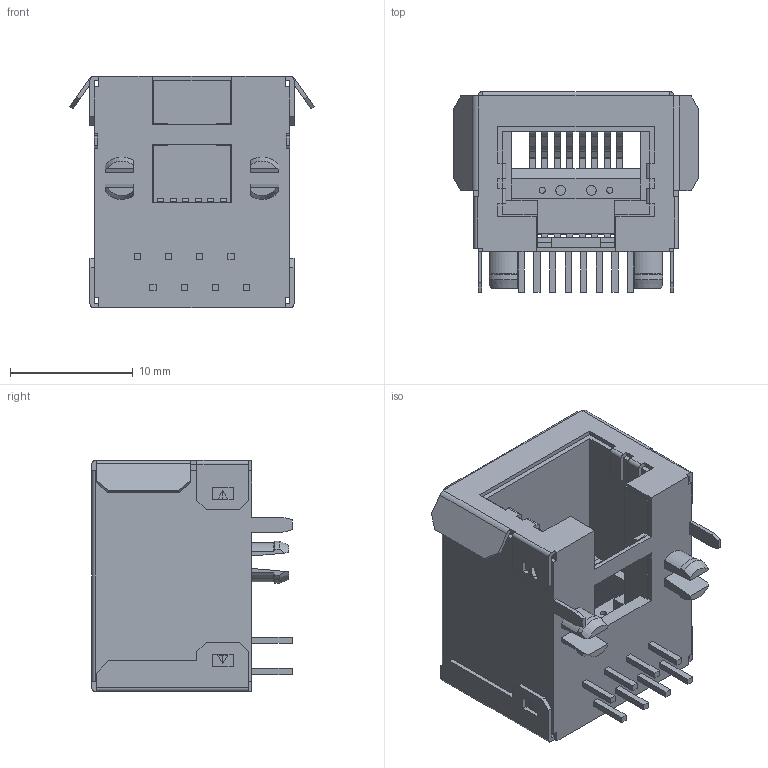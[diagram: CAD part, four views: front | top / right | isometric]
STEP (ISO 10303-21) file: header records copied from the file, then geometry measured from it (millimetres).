
FILE_DESCRIPTION((''),'2;1');
FILE_NAME('855055002','2012-02-29T',('gga'),(''),'PRO/ENGINEER BY PARAMETRIC TECHNOLOGY CORPORATION, 2003451','PRO/ENGINEER BY PARAMETRIC TECHNOLOGY CORPORATION, 2003451','');
FILE_SCHEMA(('CONFIG_CONTROL_DESIGN'));
Length unit declared in the file: millimetre
Products named in the file (1): 855055002
Bounding box: 19.9 x 16.3 x 18.8 mm (x, y, z)
Volume: 2455.1 mm3; surface area: 2592.3 mm2
Topology: 1 solids, 1 shells, 485 faces, 1415 edges, 952 vertices
Faces by surface type: plane 379, cylinder 98, cone 8
Entity records: 16010 total; most frequent: CARTESIAN_POINT 2887, ORIENTED_EDGE 2768, DIRECTION 2591, EDGE_CURVE 1384, VECTOR 1171, LINE 1171, VERTEX_POINT 914, AXIS2_PLACEMENT_3D 710
